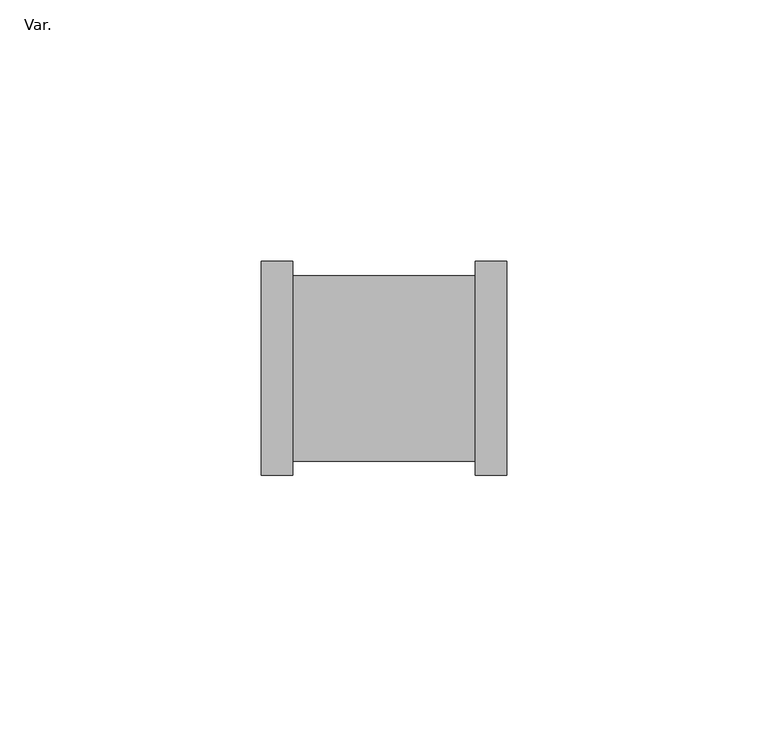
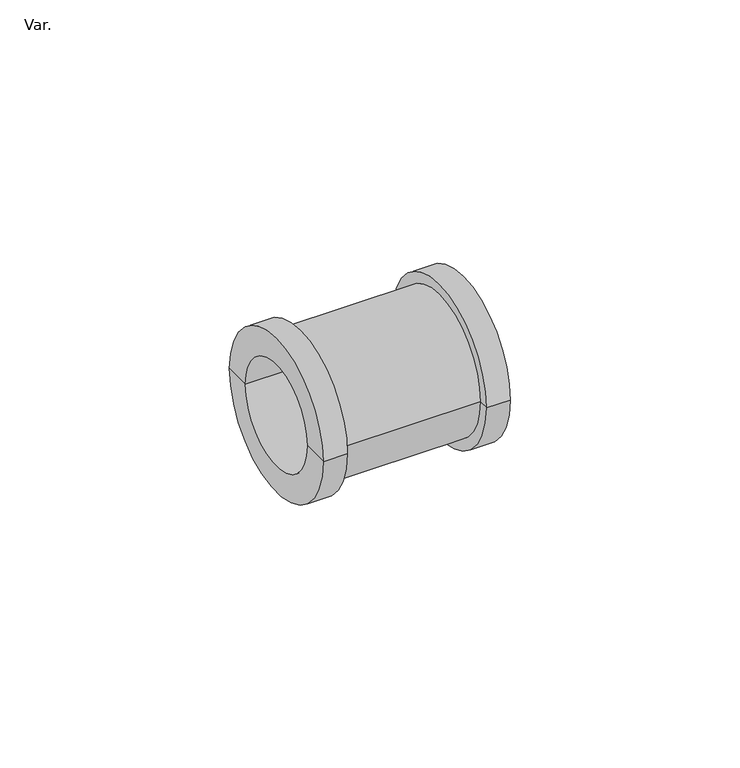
"""IFC4 building model written with IfcOpenShell, lengths in millimetres: pipe fitting geometry, PlastigamaWavin_Unionesdetubería_LineaDoradaZNoUsarUnión : Var.."""

import ifcopenshell
import ifcopenshell.guid

model = None  # the IFC model being written
_history = None  # IfcOwnerHistory: only IFC2X3 demands one
_inside = {}  # id of a spatial element -> (the spatial element, [elements in it])
_under = {}  # id of a project, library or spatial element -> (it, [spatial elements below it])
_declared = {}  # id of a project -> (the project, [libraries it declares])
_typed = {}  # id of a type object -> (the type object, [elements of that type])
_made_of = {}  # id of a material, layer set ... -> (it, [elements and type objects made of it])


def new_model(schema):
    """Start an empty IFC model of exactly this schema.

    Asked for "IFC4X3", IfcOpenShell would pick the latest addendum, in which some entities
    have other attributes; the version numbers below select the first issue.
    IFC2X3 requires an IfcOwnerHistory on every rooted entity: one is made here for all.
    """
    global model, _history
    if schema == "IFC4X3":
        model = ifcopenshell.file(schema_version=(4, 3, 0, 0))
    else:
        model = ifcopenshell.file(schema=schema)
    _inside.clear()
    _under.clear()
    _declared.clear()
    _typed.clear()
    _made_of.clear()
    _history = None
    if model.schema == "IFC2X3":
        org = make("IfcOrganization", Name="unknown")
        user = make(
            "IfcPersonAndOrganization",
            ThePerson=make("IfcPerson", FamilyName="unknown"),
            TheOrganization=org,
        )
        app = make(
            "IfcApplication",
            ApplicationDeveloper=org,
            Version="unknown",
            ApplicationFullName="unknown",
            ApplicationIdentifier="unknown",
        )
        _history = make(
            "IfcOwnerHistory",
            OwningUser=user,
            OwningApplication=app,
            ChangeAction="ADDED",
            CreationDate=0,
        )
    return model


def make(cls, **values):
    """One entity of the class cls with the attributes given. An attribute that is None is left unset."""
    return model.create_entity(
        cls, **{name: value for name, value in values.items() if value is not None}
    )


def rooted(cls, **values):
    """An entity with a GlobalId (a new one), such as an element, a storey or a relation."""
    return make(cls, GlobalId=ifcopenshell.guid.new(), OwnerHistory=_history, **values)


def si_unit(unit_type, name, prefix=None):
    """IfcSIUnit, for example si_unit("LENGTHUNIT", "METRE", prefix="MILLI")."""
    return make("IfcSIUnit", UnitType=unit_type, Prefix=prefix, Name=name)


def assignment(units):
    """IfcUnitAssignment: the units of a project."""
    return None if units is None else make("IfcUnitAssignment", Units=units)


def point(xyz):
    """IfcCartesianPoint."""
    return None if xyz is None else make("IfcCartesianPoint", Coordinates=xyz)


def direction(xyz):
    """IfcDirection."""
    return None if xyz is None else make("IfcDirection", DirectionRatios=xyz)


def frame(location, z_axis=None, x_axis=None):
    """IfcAxis2Placement3D, a coordinate frame: its origin and axes. An axis left out is left unset."""
    return make(
        "IfcAxis2Placement3D",
        Location=point(location),
        Axis=direction(z_axis),
        RefDirection=direction(x_axis),
    )


def origin():
    """The frame at (0, 0, 0) with its axes left unset."""
    return frame((0.0, 0.0, 0.0))


def place(relative_to, where):
    """IfcLocalPlacement: puts the frame where relative to a parent placement (None: the world)."""
    return make(
        "IfcLocalPlacement", PlacementRelTo=relative_to, RelativePlacement=where
    )


def context(
    kind, dimensions, precision=None, world=None, true_north=None, identifier=None
):
    """IfcGeometricRepresentationContext, for example the 3D "Model" context."""
    return make(
        "IfcGeometricRepresentationContext",
        ContextIdentifier=identifier,
        ContextType=kind,
        CoordinateSpaceDimension=dimensions,
        Precision=precision,
        WorldCoordinateSystem=world,
        TrueNorth=true_north,
    )


def project(units=None, contexts=None):
    """IfcProject with its units and contexts."""
    return rooted(
        "IfcProject",
        Name="project",
        RepresentationContexts=contexts,
        UnitsInContext=assignment(units),
    )


def spatial(cls, under=None, at=None, **own):
    """A site, building, storey or space (cls), placed at a placement, below another one or the project."""
    s = rooted(cls, ObjectPlacement=at, **own)
    if under is not None:
        _under.setdefault(under.id(), (under, []))[1].append(s)
    return s


def polyline(points):
    """IfcPolyline through the points."""
    return make("IfcPolyline", Points=[point(p) for p in points])


def circle_curve(where, radius):
    """IfcCircle in the frame where."""
    return make("IfcCircle", Position=where, Radius=radius)


def shape(context_of_items, identifier, shape_type, items):
    """IfcShapeRepresentation: the items that make up one representation, for example the "Body"."""
    return make(
        "IfcShapeRepresentation",
        ContextOfItems=context_of_items,
        RepresentationIdentifier=identifier,
        RepresentationType=shape_type,
        Items=items,
    )


def source(mapping_origin, context_of_items, identifier, shape_type, items):
    """IfcRepresentationMap: a shape defined once, which mapped items show again and again."""
    return make(
        "IfcRepresentationMap",
        MappingOrigin=mapping_origin,
        MappedRepresentation=shape(context_of_items, identifier, shape_type, items),
    )


def transform(
    local_origin,
    x_axis=None,
    y_axis=None,
    z_axis=None,
    scale=None,
    scale2=None,
    scale3=None,
    uniform=True,
):
    """IfcCartesianTransformationOperator3D, or its non-uniform kind. x_axis, y_axis, z_axis: its Axis1, 2, 3."""
    if uniform:
        return make(
            "IfcCartesianTransformationOperator3D",
            Axis1=direction(x_axis),
            Axis2=direction(y_axis),
            LocalOrigin=point(local_origin),
            Scale=scale,
            Axis3=direction(z_axis),
        )
    return make(
        "IfcCartesianTransformationOperator3DnonUniform",
        Axis1=direction(x_axis),
        Axis2=direction(y_axis),
        LocalOrigin=point(local_origin),
        Scale=scale,
        Axis3=direction(z_axis),
        Scale2=scale2,
        Scale3=scale3,
    )


def mapped(mapping_source, mapping_target):
    """IfcMappedItem: shows the shape of a source again, moved by a transform."""
    return make(
        "IfcMappedItem", MappingSource=mapping_source, MappingTarget=mapping_target
    )


def made_of(thing, what):
    """Note that an element or type object is made of a material, layer set ...; save() writes the relation."""
    if what is not None:
        _made_of.setdefault(what.id(), (what, []))[1].append(thing)
    return thing


def element(
    cls,
    number,
    at=None,
    inside=None,
    cuts=None,
    type_object=None,
    material=None,
    context=None,
    identifier="Body",
    shape_type=None,
    held_by="IfcProductDefinitionShape",
    body=None,
    shapes=None,
    **own,
):
    """One element of the class cls, such as IfcWall. Its Tag is "e" and its number.

    at: its placement. inside: the storey or other place that contains it. cuts: it is an
    opening in that element (IfcRelVoidsElement). A single representation is given by context,
    identifier, shape_type and body (its items); several are given by shapes. held_by: the class
    of the entity that holds the representations. save() writes the other relations.
    """
    e = rooted(cls, Tag="e%d" % number, ObjectPlacement=at, **own)
    if body is not None:
        shapes = [shape(context, identifier, shape_type, body)]
    if shapes is not None:
        e.Representation = make(held_by, Representations=shapes)
    if inside is not None:
        _inside.setdefault(inside.id(), (inside, []))[1].append(e)
    if cuts is not None:
        rooted(
            "IfcRelVoidsElement", RelatingBuildingElement=cuts, RelatedOpeningElement=e
        )
    if type_object is not None:
        _typed.setdefault(type_object.id(), (type_object, []))[1].append(e)
    return made_of(e, material)


def aggregate(whole, parts):
    """IfcRelAggregates: a whole, such as a stair, and the parts it consists of."""
    return rooted("IfcRelAggregates", RelatingObject=whole, RelatedObjects=parts)


def save(model, path):
    """Write the relations noted so far, then the file.

    IfcRelAggregates (storeys below a building ...), IfcRelContainedInSpatialStructure (elements
    in a storey), IfcRelDefinesByType, IfcRelAssociatesMaterial and IfcRelDeclares: one each for
    every whole, place, type object, material and project.
    """
    for whole, parts in _under.values():
        aggregate(whole, parts)
    for where, things in _inside.values():
        rooted(
            "IfcRelContainedInSpatialStructure",
            RelatedElements=things,
            RelatingStructure=where,
        )
    for kind, things in _typed.values():
        rooted("IfcRelDefinesByType", RelatedObjects=things, RelatingType=kind)
    for what, things in _made_of.values():
        rooted("IfcRelAssociatesMaterial", RelatedObjects=things, RelatingMaterial=what)
    for by, libraries in _declared.values():
        rooted("IfcRelDeclares", RelatingContext=by, RelatedDefinitions=libraries)
    model.write(path)


def plane_surface(at):
    """IfcPlane: the flat surface through the origin of the frame at, square to its z axis."""
    return make("IfcPlane", Position=at)


def cylinder_surface(at, radius):
    """IfcCylindricalSurface: all points at the distance radius from the z axis of the frame at."""
    return make("IfcCylindricalSurface", Position=at, Radius=radius)


def revolved_surface(curve, axis_point, axis_direction):
    """IfcSurfaceOfRevolution: the curve turned about the line through axis_point along axis_direction."""
    return make(
        "IfcSurfaceOfRevolution",
        SweptCurve=make("IfcArbitraryOpenProfileDef", ProfileType="CURVE", Curve=curve),
        AxisPosition=make("IfcAxis1Placement", Location=point(axis_point), Axis=direction(axis_direction)),
    )


def advanced_brep(points, edges, surfaces, faces):
    """IfcAdvancedBrep: a solid bounded by faces that lie on surfaces and meet in shared edges.

    An edge is (start, end): straight between two places in points (the first is 0);
    or (start, end, curve); or (start, end, curve, False) where it runs against its curve.
    A face is (place in surfaces, loops), or (place, loops, False) where it looks against
    its surface's normal. A loop lists edges by number (the first is 1), with a minus sign
    where the edge is run from its end to its start. The first loop is the outer one.
    """
    corners = [point(p) for p in points]
    vertices = [make("IfcVertexPoint", VertexGeometry=c) for c in corners]
    made = []
    for start, end, *more in edges:
        made.append(
            make(
                "IfcEdgeCurve",
                EdgeStart=vertices[start],
                EdgeEnd=vertices[end],
                EdgeGeometry=more[0] if more else make("IfcPolyline", Points=[corners[start], corners[end]]),
                SameSense=more[1] if len(more) > 1 else True,
            )
        )
    hull = []
    for where, loops, *sense in faces:
        bounds = []
        for j, loop in enumerate(loops):
            ring = [make("IfcOrientedEdge", EdgeElement=made[abs(k) - 1], Orientation=k > 0) for k in loop]
            bounds.append(
                make(
                    "IfcFaceOuterBound" if j == 0 else "IfcFaceBound",
                    Bound=make("IfcEdgeLoop", EdgeList=ring),
                    Orientation=True,
                )
            )
        hull.append(make("IfcAdvancedFace", Bounds=bounds, FaceSurface=surfaces[where], SameSense=sense[0] if sense else True))
    return make("IfcAdvancedBrep", Outer=make("IfcClosedShell", CfsFaces=hull))


def var_d9dd8e61(model_context):
    return source(origin(), model_context, "Body", "AdvancedBrep", [
        advanced_brep(
        [(-1.0, 0.0, 0.0), (-1.0, 13.525, 0.0), (-1.0, -13.525, 0.0), (1.0, -13.525, 0.0), (1.0, 13.525, 0.0), (1.0, 0.0, 0.0), (23.5, -13.525, 0.0), (23.5, 13.525, 0.0), (-17.5, -17.75, 0.0), (-17.5, 17.75, 0.0), (17.5, 17.75, 0.0), (17.5, -17.75, 0.0), (-23.5, 13.525, 0.0), (-23.5, -13.525, 0.0), (23.5, -20.5, 0.0), (23.5, 20.5, 0.0), (17.5, -20.5, 0.0), (17.5, 20.5, 0.0), (-17.5, -20.5, 0.0), (-17.5, 20.5, 0.0), (-23.5, -20.5, 0.0), (-23.5, 20.5, 0.0)],
        [
            (0, 1),
            (1, 2, circle_curve(frame((-1.0, 0.0, 0.0), z_axis=(-1.0, 0.0, 0.0), x_axis=(0.0, 1.0, 0.0)), 13.525)),
            (2, 0),
            (2, 1, circle_curve(frame((-1.0, 0.0, 0.0), z_axis=(-1.0, 0.0, 0.0), x_axis=(0.0, 1.0, 0.0)), 13.525)),
            (3, 4, circle_curve(frame((1.0, 0.0, 0.0), z_axis=(1.0, 0.0, 0.0), x_axis=(0.0, 1.0, 0.0)), 13.525)),
            (4, 5),
            (5, 3),
            (4, 3, circle_curve(frame((1.0, 0.0, 0.0), z_axis=(1.0, 0.0, 0.0), x_axis=(0.0, 1.0, 0.0)), 13.525)),
            (6, 7, circle_curve(frame((23.5, 0.0, 0.0), z_axis=(1.0, 0.0, 0.0), x_axis=(0.0, 1.0, 0.0)), 13.525)),
            (7, 4),
            (3, 6),
            (7, 6, circle_curve(frame((23.5, 0.0, 0.0), z_axis=(1.0, 0.0, 0.0), x_axis=(0.0, 1.0, 0.0)), 13.525)),
            (8, 9, circle_curve(frame((-17.5, 0.0, 0.0), z_axis=(1.0, 0.0, 0.0), x_axis=(0.0, 1.0, 0.0)), 17.75)),
            (9, 10),
            (10, 11, circle_curve(frame((17.5, 0.0, 0.0), z_axis=(-1.0, 0.0, 0.0), x_axis=(0.0, 1.0, 0.0)), 17.75)),
            (11, 8),
            (9, 8, circle_curve(frame((-17.5, 0.0, 0.0), z_axis=(1.0, 0.0, 0.0), x_axis=(0.0, 1.0, 0.0)), 17.75)),
            (11, 10, circle_curve(frame((17.5, 0.0, 0.0), z_axis=(-1.0, 0.0, 0.0), x_axis=(0.0, 1.0, 0.0)), 17.75)),
            (1, 12),
            (12, 13, circle_curve(frame((-23.5, 0.0, 0.0), z_axis=(-1.0, 0.0, 0.0), x_axis=(0.0, 1.0, 0.0)), 13.525)),
            (13, 2),
            (13, 12, circle_curve(frame((-23.5, 0.0, 0.0), z_axis=(-1.0, 0.0, 0.0), x_axis=(0.0, 1.0, 0.0)), 13.525)),
            (14, 15, circle_curve(frame((23.5, 0.0, 0.0), z_axis=(1.0, 0.0, 0.0), x_axis=(0.0, 1.0, 0.0)), 20.5)),
            (15, 7),
            (6, 14),
            (15, 14, circle_curve(frame((23.5, 0.0, 0.0), z_axis=(1.0, 0.0, 0.0), x_axis=(0.0, 1.0, 0.0)), 20.5)),
            (16, 17, circle_curve(frame((17.5, 0.0, 0.0), z_axis=(1.0, 0.0, 0.0), x_axis=(0.0, 1.0, 0.0)), 20.5)),
            (17, 15),
            (14, 16),
            (17, 16, circle_curve(frame((17.5, 0.0, 0.0), z_axis=(1.0, 0.0, 0.0), x_axis=(0.0, 1.0, 0.0)), 20.5)),
            (10, 17),
            (16, 11),
            (18, 19, circle_curve(frame((-17.5, 0.0, 0.0), z_axis=(1.0, 0.0, 0.0), x_axis=(0.0, 1.0, 0.0)), 20.5)),
            (19, 9),
            (8, 18),
            (19, 18, circle_curve(frame((-17.5, 0.0, 0.0), z_axis=(1.0, 0.0, 0.0), x_axis=(0.0, 1.0, 0.0)), 20.5)),
            (20, 21, circle_curve(frame((-23.5, 0.0, 0.0), z_axis=(1.0, 0.0, 0.0), x_axis=(0.0, 1.0, 0.0)), 20.5)),
            (21, 19),
            (18, 20),
            (21, 20, circle_curve(frame((-23.5, 0.0, 0.0), z_axis=(1.0, 0.0, 0.0), x_axis=(0.0, 1.0, 0.0)), 20.5)),
            (12, 21),
            (20, 13),
        ],
        [
            plane_surface(frame((-1.0, 0.0, 0.0), z_axis=(-1.0, 0.0, 0.0), x_axis=(0.0, 1.0, 0.0))),
            plane_surface(frame((1.0, 0.0, 0.0), z_axis=(1.0, 0.0, 0.0), x_axis=(0.0, 1.0, 0.0))),
            revolved_surface(polyline([(1.0, 13.525, 0.0), (23.499999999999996, 13.525, 0.0)]), (-14.7162228, 0.0, 0.0), (-1.0, 0.0, 0.0)),
            cylinder_surface(frame((-14.7162228, 0.0, 0.0), z_axis=(-1.0, 0.0, 0.0), x_axis=(0.0, 1.0, 0.0)), 17.75),
            revolved_surface(polyline([(-23.5, 13.525, 0.0), (-1.0, 13.525, 0.0)]), (-14.7162228, 0.0, 0.0), (-1.0, 0.0, 0.0)),
            plane_surface(frame((23.5, 0.0, 0.0), z_axis=(1.0, 0.0, 0.0), x_axis=(0.0, 1.0, 0.0))),
            cylinder_surface(frame((-14.7162228, 0.0, 0.0), z_axis=(-1.0, 0.0, 0.0), x_axis=(0.0, 1.0, 0.0)), 20.5),
            plane_surface(frame((17.5, 0.0, 0.0), z_axis=(-1.0, 0.0, 0.0), x_axis=(0.0, 1.0, 0.0))),
            plane_surface(frame((-17.5, 0.0, 0.0), z_axis=(1.0, 0.0, 0.0), x_axis=(0.0, 1.0, 0.0))),
            plane_surface(frame((-23.5, 0.0, 0.0), z_axis=(-1.0, 0.0, 0.0), x_axis=(0.0, 1.0, 0.0))),
        ],
        [
            (0, [[1, 2, 3]]),
            (0, [[-3, 4, -1]]),
            (1, [[5, 6, 7]]),
            (1, [[8, -7, -6]]),
            (2, [[9, 10, -5, 11]]),
            (2, [[12, -11, -8, -10]]),
            (3, [[13, 14, 15, 16]]),
            (3, [[17, -16, 18, -14]]),
            (4, [[-2, 19, 20, 21]]),
            (4, [[-4, -21, 22, -19]]),
            (5, [[23, 24, -9, 25]]),
            (5, [[26, -25, -12, -24]]),
            (6, [[27, 28, -23, 29]]),
            (6, [[30, -29, -26, -28]]),
            (7, [[-15, 31, -27, 32]]),
            (7, [[-18, -32, -30, -31]]),
            (8, [[33, 34, -13, 35]]),
            (8, [[36, -35, -17, -34]]),
            (6, [[37, 38, -33, 39]]),
            (6, [[40, -39, -36, -38]]),
            (9, [[-20, 41, -37, 42]]),
            (9, [[-22, -42, -40, -41]]),
        ],
    ),
    ])


if __name__ == "__main__":
    model = new_model("IFC4")
    model_context = context("Model", 3, world=origin())
    ifc_project = project(units=[si_unit("LENGTHUNIT", "METRE", prefix="MILLI")], contexts=[model_context])
    site = spatial("IfcSite", under=ifc_project)
    building = spatial("IfcBuilding", under=site)
    placement = place(None, origin())
    var_shape = var_d9dd8e61(model_context)
    element("IfcPipeFitting", 1, ObjectType="PlastigamaWavin_Unionesdetubería_LineaDoradaZNoUsarUnión : Var.", at=placement, inside=building, context=model_context, shape_type="MappedRepresentation", body=[
        mapped(var_shape, transform((0.0, 0.0, 0.0), x_axis=(1.0, 0.0, 0.0), y_axis=(0.0, 1.0, 0.0), z_axis=(0.0, 0.0, 1.0))),
    ])
    save(model, "model.ifc")
